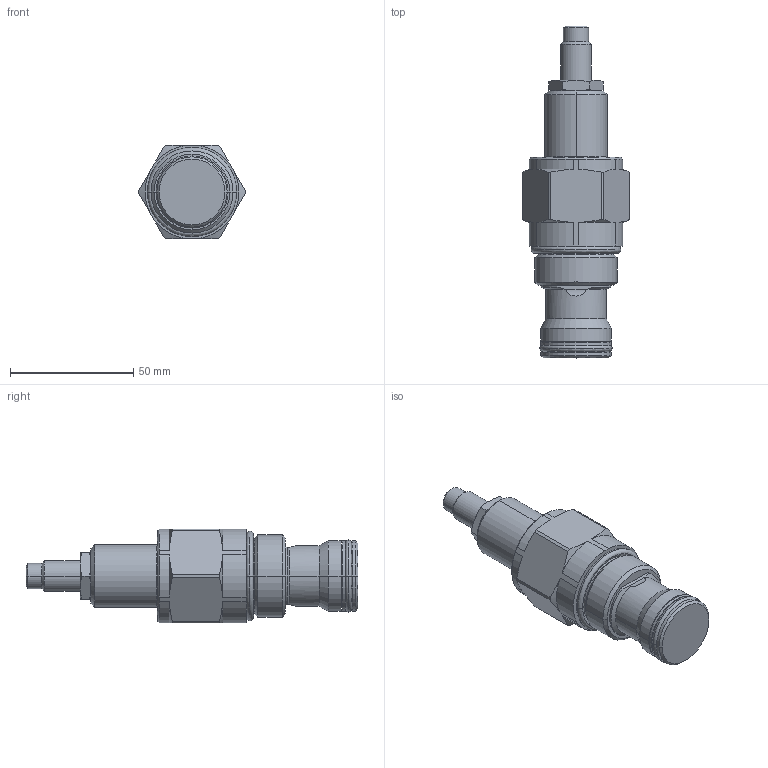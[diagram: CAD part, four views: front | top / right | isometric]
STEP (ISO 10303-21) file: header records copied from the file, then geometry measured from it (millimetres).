
FILE_DESCRIPTION((''),'2;1');
FILE_NAME('PRT0018','2009-03-25T',('JCS'),(''),'PRO/ENGINEER BY PARAMETRIC TECHNOLOGY CORPORATION, 2008510','PRO/ENGINEER BY PARAMETRIC TECHNOLOGY CORPORATION, 2008510','');
FILE_SCHEMA(('CONFIG_CONTROL_DESIGN'));
Length unit declared in the file: inch
Products named in the file (1): PRT0018
Bounding box: 43.23 x 134.73 x 38.04 mm (x, y, z)
Volume: 90620.2 mm3; surface area: 17080.7 mm2
Topology: 3 solids, 3 shells, 173 faces, 420 edges, 257 vertices
Faces by surface type: cylinder 56, cone 54, plane 37, revolution 16, torus 10
Entity records: 5678 total; most frequent: CARTESIAN_POINT 1644, ORIENTED_EDGE 836, DIRECTION 830, EDGE_CURVE 418, AXIS2_PLACEMENT_3D 335, VERTEX_POINT 257, EDGE_LOOP 183, CIRCLE 178
